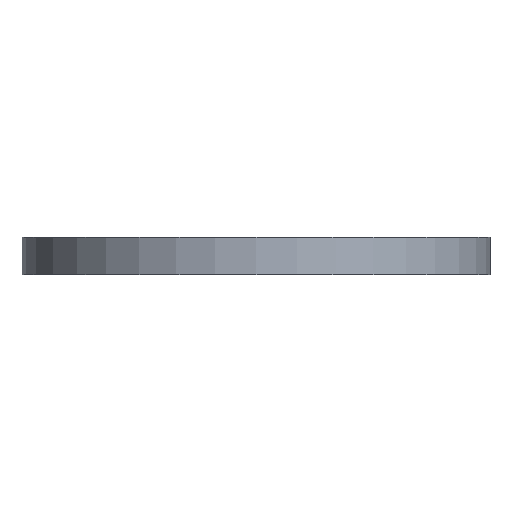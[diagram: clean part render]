
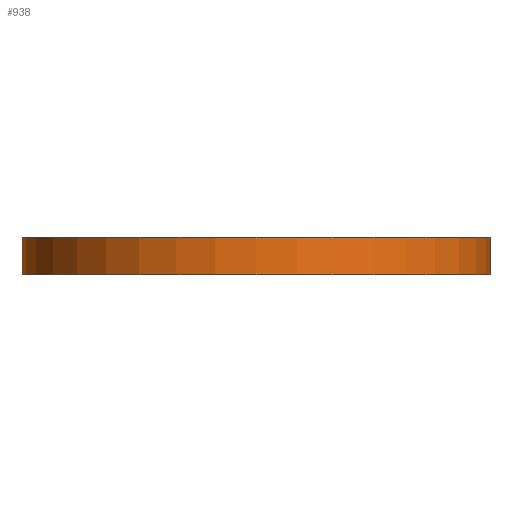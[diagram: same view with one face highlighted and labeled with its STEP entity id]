
A CAD part, front view. The second image highlights one B-rep face of the part: STEP entity #938.
In plain terms, the highlighted cylindrical face has radius 290 mm (diameter 580 mm), a partial arc.
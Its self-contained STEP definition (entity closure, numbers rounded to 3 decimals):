
#28 = EDGE_CURVE ( 'NONE', #1307, #1315, #860, .T. ) ;
#59 = VECTOR ( 'NONE', #226, 1000. ) ;
#97 = CARTESIAN_POINT ( 'NONE',  ( 290., 0., 0. ) ) ;
#103 = CARTESIAN_POINT ( 'NONE',  ( -290., 0., 0. ) ) ;
#104 = EDGE_CURVE ( 'NONE', #1258, #1213, #1231, .T. ) ;
#130 = CARTESIAN_POINT ( 'NONE',  ( -290., 0., -46. ) ) ;
#155 = CARTESIAN_POINT ( 'NONE',  ( 290., 0., -46. ) ) ;
#199 = CARTESIAN_POINT ( 'NONE',  ( 290., 0., -135. ) ) ;
#200 = DIRECTION ( 'NONE',  ( 0., 0., 1. ) ) ;
#202 = LINE ( 'NONE', #199, #911 ) ;
#226 = DIRECTION ( 'NONE',  ( 0., 0., 1. ) ) ;
#227 = CARTESIAN_POINT ( 'NONE',  ( -290., 0., -135. ) ) ;
#229 = LINE ( 'NONE', #227, #59 ) ;
#370 = DIRECTION ( 'NONE',  ( 1., 0., 0. ) ) ;
#371 = DIRECTION ( 'NONE',  ( 0., 0., 1. ) ) ;
#372 = CARTESIAN_POINT ( 'NONE',  ( 0., 0., -135. ) ) ;
#373 = CYLINDRICAL_SURFACE ( 'NONE', #920, 290. ) ;
#374 = FACE_OUTER_BOUND ( 'NONE', #1223, .T. ) ;
#715 = DIRECTION ( 'NONE',  ( 1., 0., 0. ) ) ;
#717 = DIRECTION ( 'NONE',  ( 0., 0., 1. ) ) ;
#718 = CARTESIAN_POINT ( 'NONE',  ( 0., 0., -46. ) ) ;
#851 = DIRECTION ( 'NONE',  ( 0., 0., 1. ) ) ;
#852 = DIRECTION ( 'NONE',  ( 1., 0., 0. ) ) ;
#858 = AXIS2_PLACEMENT_3D ( 'NONE', #1173, #851, #852 ) ;
#860 = CIRCLE ( 'NONE', #858, 290. ) ;
#911 = VECTOR ( 'NONE', #200, 1000. ) ;
#920 = AXIS2_PLACEMENT_3D ( 'NONE', #372, #371, #370 ) ;
#938 = ADVANCED_FACE ( 'NONE', ( #374 ), #373, .T. ) ;
#952 = ORIENTED_EDGE ( 'NONE', *, *, #1064, .F. ) ;
#954 = ORIENTED_EDGE ( 'NONE', *, *, #104, .T. ) ;
#955 = ORIENTED_EDGE ( 'NONE', *, *, #1094, .T. ) ;
#956 = ORIENTED_EDGE ( 'NONE', *, *, #28, .F. ) ;
#1064 = EDGE_CURVE ( 'NONE', #1258, #1307, #229, .T. ) ;
#1094 = EDGE_CURVE ( 'NONE', #1213, #1315, #202, .T. ) ;
#1173 = CARTESIAN_POINT ( 'NONE',  ( 0., 0., 0. ) ) ;
#1213 = VERTEX_POINT ( 'NONE', #155 ) ;
#1223 = EDGE_LOOP ( 'NONE', ( #952, #954, #955, #956 ) ) ;
#1231 = CIRCLE ( 'NONE', #1265, 290. ) ;
#1258 = VERTEX_POINT ( 'NONE', #130 ) ;
#1265 = AXIS2_PLACEMENT_3D ( 'NONE', #718, #717, #715 ) ;
#1307 = VERTEX_POINT ( 'NONE', #103 ) ;
#1315 = VERTEX_POINT ( 'NONE', #97 ) ;
